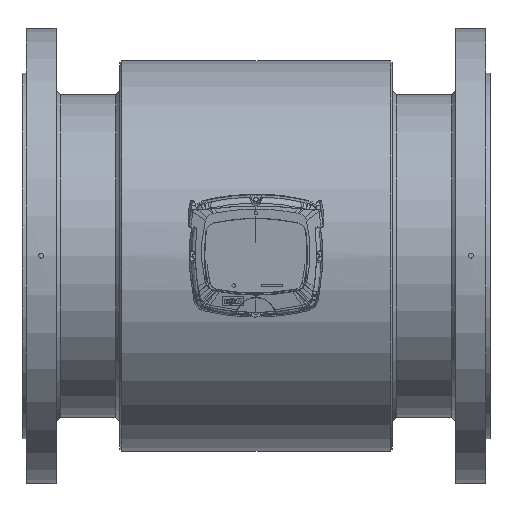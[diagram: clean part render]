
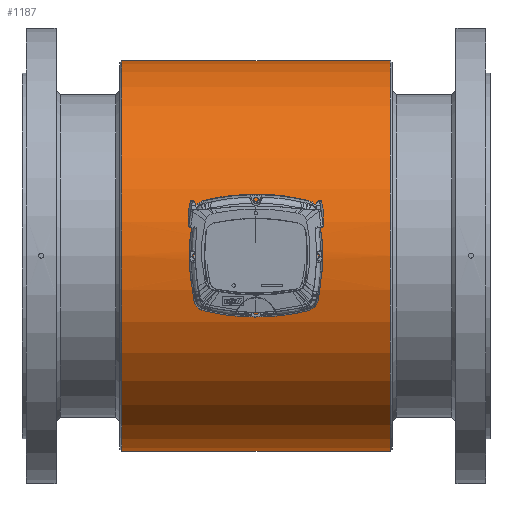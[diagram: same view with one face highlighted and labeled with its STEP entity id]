
A CAD part, top view. The second image highlights one B-rep face of the part: STEP entity #1187.
In plain terms, the highlighted cylindrical face has radius 229.5 mm (diameter 459 mm), a full revolution.
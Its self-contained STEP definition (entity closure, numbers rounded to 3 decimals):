
#1123=CARTESIAN_POINT('',(0.,-11.498,229.212));
#1124=VERTEX_POINT('',#1123);
#1134=CARTESIAN_POINT('',(0.,-11.498,229.212));
#1135=CARTESIAN_POINT('',(1.74,-11.498,229.212));
#1136=CARTESIAN_POINT('',(5.218,-10.712,229.253));
#1137=CARTESIAN_POINT('',(9.402,-7.415,229.393));
#1138=CARTESIAN_POINT('',(11.724,-2.647,229.505));
#1139=CARTESIAN_POINT('',(11.724,2.648,229.504));
#1140=CARTESIAN_POINT('',(9.401,7.411,229.393));
#1141=CARTESIAN_POINT('',(4.753,11.087,229.236));
#1142=CARTESIAN_POINT('',(-0.636,11.888,229.191));
#1143=CARTESIAN_POINT('',(-6.249,10.175,229.278));
#1144=CARTESIAN_POINT('',(-9.795,6.92,229.412));
#1145=CARTESIAN_POINT('',(-11.722,2.055,229.505));
#1146=CARTESIAN_POINT('',(-11.725,-2.645,229.504));
#1147=CARTESIAN_POINT('',(-9.4,-7.416,229.393));
#1148=CARTESIAN_POINT('',(-5.218,-10.712,229.253));
#1149=CARTESIAN_POINT('',(-1.739,-11.498,229.212));
#1150=CARTESIAN_POINT('',(0.,-11.498,229.212));
#1151=B_SPLINE_CURVE_WITH_KNOTS('',3,(#1134,#1135,#1136,#1137,#1138,#1139,#1140,#1141,#1142,#1143,#1144,#1145,#1146,#1147,#1148,#1149,#1150),.UNSPECIFIED.,.T.,.U.,(4,1,1,1,1,1,1,1,1,1,1,1,1,1,4),(-7.274,-6.755,-6.235,-5.715,-5.196,-4.676,-4.157,-3.464,-3.118,-2.425,-2.078,-1.559,-1.039,-0.52,0.0),.UNSPECIFIED.);
#1152=EDGE_CURVE('',#1124,#1124,#1151,.T.);
#1157=CARTESIAN_POINT('',(79.,0.0,0.0));
#1158=DIRECTION('',(1.0,0.0,0.0));
#1159=DIRECTION('',(0.0,1.0,0.0));
#1160=AXIS2_PLACEMENT_3D('',#1157,#1158,#1159);
#1161=CYLINDRICAL_SURFACE('',#1160,229.5);
#1162=CARTESIAN_POINT('',(-158.,229.5,0.0));
#1163=VERTEX_POINT('',#1162);
#1164=CARTESIAN_POINT('',(-158.,0.0,0.0));
#1165=DIRECTION('',(1.0,0.0,0.0));
#1166=DIRECTION('',(0.0,1.0,0.0));
#1167=AXIS2_PLACEMENT_3D('',#1164,#1165,#1166);
#1168=CIRCLE('',#1167,229.5);
#1169=EDGE_CURVE('',#1163,#1163,#1168,.T.);
#1170=ORIENTED_EDGE('',*,*,#1169,.T.);
#1171=EDGE_LOOP('',(#1170));
#1172=FACE_OUTER_BOUND('',#1171,.T.);
#1173=CARTESIAN_POINT('',(158.0,229.5,0.0));
#1174=VERTEX_POINT('',#1173);
#1175=CARTESIAN_POINT('',(158.0,0.0,0.0));
#1176=DIRECTION('',(1.0,0.0,0.0));
#1177=DIRECTION('',(0.0,1.0,0.0));
#1178=AXIS2_PLACEMENT_3D('',#1175,#1176,#1177);
#1179=CIRCLE('',#1178,229.5);
#1180=EDGE_CURVE('',#1174,#1174,#1179,.T.);
#1181=ORIENTED_EDGE('',*,*,#1180,.F.);
#1182=EDGE_LOOP('',(#1181));
#1183=FACE_BOUND('',#1182,.T.);
#1184=ORIENTED_EDGE('',*,*,#1152,.F.);
#1185=EDGE_LOOP('',(#1184));
#1186=FACE_BOUND('',#1185,.T.);
#1187=ADVANCED_FACE('',(#1172,#1183,#1186),#1161,.T.);
